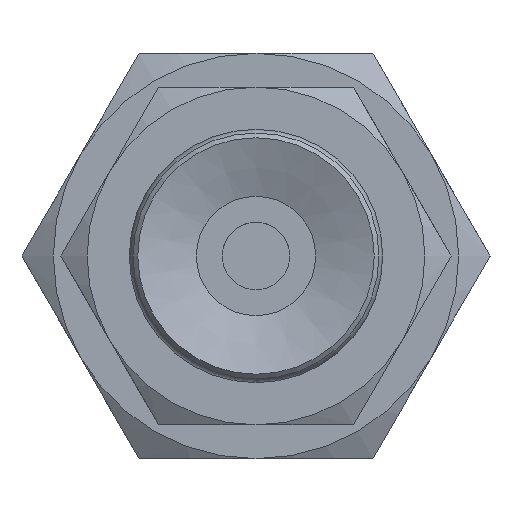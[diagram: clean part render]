
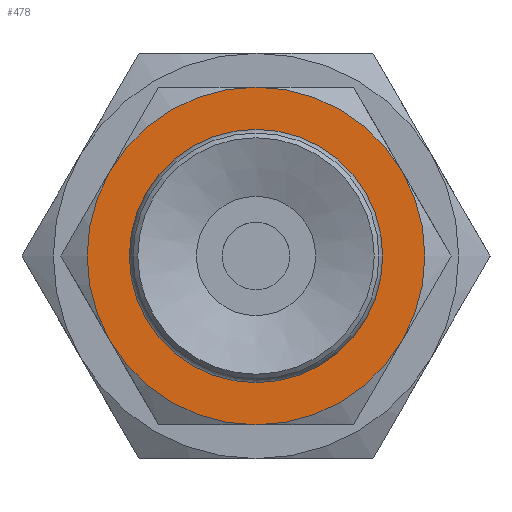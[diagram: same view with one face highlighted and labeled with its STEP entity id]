
A CAD part, front view. The second image highlights one B-rep face of the part: STEP entity #478.
In plain terms, the highlighted planar face has unit normal (0, -1, 0).
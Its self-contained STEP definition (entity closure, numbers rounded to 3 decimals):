
#478=ADVANCED_FACE('',(#712,#713),#714,.T.);
#712=FACE_BOUND('',#1020,.T.);
#713=FACE_OUTER_BOUND('',#1021,.T.);
#714=PLANE('',#1022);
#1020=EDGE_LOOP('',(#1701));
#1021=EDGE_LOOP('',(#1702,#1703,#1704,#1705,#1706,#1707));
#1022=AXIS2_PLACEMENT_3D('',#1708,#1709,#1710);
#1701=ORIENTED_EDGE('',*,*,#2112,.F.);
#1702=ORIENTED_EDGE('',*,*,#2057,.T.);
#1703=ORIENTED_EDGE('',*,*,#2121,.T.);
#1704=ORIENTED_EDGE('',*,*,#2059,.T.);
#1705=ORIENTED_EDGE('',*,*,#2122,.T.);
#1706=ORIENTED_EDGE('',*,*,#2038,.T.);
#1707=ORIENTED_EDGE('',*,*,#2053,.T.);
#1708=CARTESIAN_POINT('',(2.0,0.,0.0));
#1709=DIRECTION('',(0.0,-1.0,0.0));
#1710=DIRECTION('',(0.0,0.0,-1.0));
#2038=EDGE_CURVE('',#2307,#2321,#2323,.T.);
#2053=EDGE_CURVE('',#2321,#2339,#2350,.T.);
#2057=EDGE_CURVE('',#2339,#2353,#2355,.T.);
#2059=EDGE_CURVE('',#2356,#2324,#2358,.T.);
#2112=EDGE_CURVE('',#2449,#2449,#2450,.T.);
#2121=EDGE_CURVE('',#2353,#2356,#2464,.T.);
#2122=EDGE_CURVE('',#2324,#2307,#2465,.T.);
#2307=VERTEX_POINT('',#2959);
#2321=VERTEX_POINT('',#2985);
#2323=CIRCLE('',#2989,5.0);
#2324=VERTEX_POINT('',#2990);
#2339=VERTEX_POINT('',#3016);
#2350=CIRCLE('',#3037,5.0);
#2353=VERTEX_POINT('',#3044);
#2355=CIRCLE('',#3048,5.0);
#2356=VERTEX_POINT('',#3049);
#2358=CIRCLE('',#3053,5.0);
#2449=VERTEX_POINT('',#3229);
#2450=CIRCLE('',#3230,2.0);
#2464=CIRCLE('',#3252,5.0);
#2465=CIRCLE('',#3253,5.0);
#2959=CARTESIAN_POINT('',(-4.33,0.,2.5));
#2985=CARTESIAN_POINT('',(-4.33,0.0,-2.5));
#2989=AXIS2_PLACEMENT_3D('',#3440,#3441,#3442);
#2990=CARTESIAN_POINT('',(0.0,0.0,5.0));
#3016=CARTESIAN_POINT('',(0.0,0.0,-5.0));
#3037=AXIS2_PLACEMENT_3D('',#3452,#3453,#3454);
#3044=CARTESIAN_POINT('',(4.33,0.0,-2.5));
#3048=AXIS2_PLACEMENT_3D('',#3455,#3456,#3457);
#3049=CARTESIAN_POINT('',(4.33,0.0,2.5));
#3053=AXIS2_PLACEMENT_3D('',#3458,#3459,#3460);
#3229=CARTESIAN_POINT('',(0.0,0.,-2.0));
#3230=AXIS2_PLACEMENT_3D('',#3549,#3550,#3551);
#3252=AXIS2_PLACEMENT_3D('',#3563,#3564,#3565);
#3253=AXIS2_PLACEMENT_3D('',#3566,#3567,#3568);
#3440=CARTESIAN_POINT('',(0.0,0.,0.0));
#3441=DIRECTION('',(0.0,-1.0,0.0));
#3442=DIRECTION('',(0.0,0.0,-1.0));
#3452=CARTESIAN_POINT('',(0.0,0.,0.0));
#3453=DIRECTION('',(0.0,-1.0,0.0));
#3454=DIRECTION('',(0.0,0.0,-1.0));
#3455=CARTESIAN_POINT('',(0.0,0.,0.0));
#3456=DIRECTION('',(0.0,-1.0,0.0));
#3457=DIRECTION('',(0.0,0.0,-1.0));
#3458=CARTESIAN_POINT('',(0.0,0.,0.0));
#3459=DIRECTION('',(0.0,-1.0,0.0));
#3460=DIRECTION('',(0.0,0.0,-1.0));
#3549=CARTESIAN_POINT('',(0.0,0.,0.0));
#3550=DIRECTION('',(0.0,-1.0,0.0));
#3551=DIRECTION('',(0.0,0.0,-1.0));
#3563=CARTESIAN_POINT('',(0.0,0.,0.0));
#3564=DIRECTION('',(0.0,-1.0,0.0));
#3565=DIRECTION('',(0.0,0.0,-1.0));
#3566=CARTESIAN_POINT('',(0.0,0.,0.0));
#3567=DIRECTION('',(0.0,-1.0,0.0));
#3568=DIRECTION('',(0.0,0.0,-1.0));
